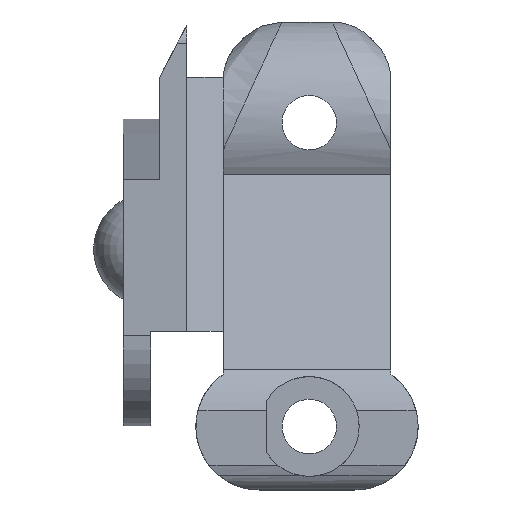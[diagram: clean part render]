
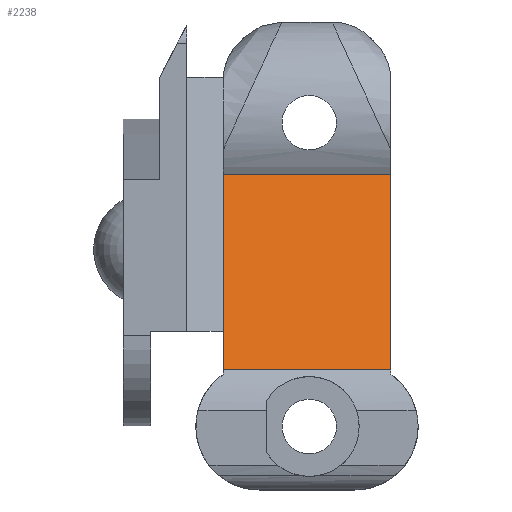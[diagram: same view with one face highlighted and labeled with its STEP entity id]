
A CAD part, left-side view. The second image highlights one B-rep face of the part: STEP entity #2238.
In plain terms, the highlighted planar face has unit normal (-0.966, 0, 0.259).
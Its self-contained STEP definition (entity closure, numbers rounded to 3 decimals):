
#136 = CARTESIAN_POINT ( 'NONE',  ( -9.525, -9.25, -16.8 ) ) ;
#230 = VERTEX_POINT ( 'NONE', #1615 ) ;
#387 = ORIENTED_EDGE ( 'NONE', *, *, #3889, .T. ) ;
#548 = LINE ( 'NONE', #4085, #1474 ) ;
#558 = ORIENTED_EDGE ( 'NONE', *, *, #4361, .T. ) ;
#567 = ORIENTED_EDGE ( 'NONE', *, *, #2391, .T. ) ;
#697 = CARTESIAN_POINT ( 'NONE',  ( -15.287, 9.25, -38.304 ) ) ;
#756 = CARTESIAN_POINT ( 'NONE',  ( -9.525, 9.25, -16.8 ) ) ;
#1406 = LINE ( 'NONE', #756, #2881 ) ;
#1474 = VECTOR ( 'NONE', #1762, 1000. ) ;
#1547 = VERTEX_POINT ( 'NONE', #3738 ) ;
#1615 = CARTESIAN_POINT ( 'NONE',  ( -15.287, -9.25, -38.304 ) ) ;
#1709 = PLANE ( 'NONE',  #2510 ) ;
#1717 = EDGE_LOOP ( 'NONE', ( #558, #1808, #567, #387 ) ) ;
#1762 = DIRECTION ( 'NONE',  ( 0., 1., 0. ) ) ;
#1780 = DIRECTION ( 'NONE',  ( -0.259, 0., -0.966 ) ) ;
#1808 = ORIENTED_EDGE ( 'NONE', *, *, #2607, .T. ) ;
#1994 = CARTESIAN_POINT ( 'NONE',  ( -15.287, -12.25, -38.304 ) ) ;
#2008 = VERTEX_POINT ( 'NONE', #697 ) ;
#2050 = CARTESIAN_POINT ( 'NONE',  ( -9.525, -12.25, -16.8 ) ) ;
#2238 = ADVANCED_FACE ( 'NONE', ( #2282 ), #1709, .T. ) ;
#2282 = FACE_OUTER_BOUND ( 'NONE', #1717, .T. ) ;
#2391 = EDGE_CURVE ( 'NONE', #230, #1547, #3597, .T. ) ;
#2393 = DIRECTION ( 'NONE',  ( 0.259, 0., 0.966 ) ) ;
#2510 = AXIS2_PLACEMENT_3D ( 'NONE', #2050, #4352, #2393 ) ;
#2540 = DIRECTION ( 'NONE',  ( 0.259, 0., 0.966 ) ) ;
#2607 = EDGE_CURVE ( 'NONE', #2008, #230, #3379, .T. ) ;
#2724 = VECTOR ( 'NONE', #2540, 1000. ) ;
#2759 = CARTESIAN_POINT ( 'NONE',  ( -9.525, 9.25, -16.8 ) ) ;
#2881 = VECTOR ( 'NONE', #1780, 1000. ) ;
#3281 = VECTOR ( 'NONE', #3985, 1000. ) ;
#3379 = LINE ( 'NONE', #1994, #3281 ) ;
#3597 = LINE ( 'NONE', #136, #2724 ) ;
#3738 = CARTESIAN_POINT ( 'NONE',  ( -9.525, -9.25, -16.8 ) ) ;
#3889 = EDGE_CURVE ( 'NONE', #1547, #4301, #548, .T. ) ;
#3985 = DIRECTION ( 'NONE',  ( 0., -1., 0. ) ) ;
#4085 = CARTESIAN_POINT ( 'NONE',  ( -9.525, -12.25, -16.8 ) ) ;
#4301 = VERTEX_POINT ( 'NONE', #2759 ) ;
#4352 = DIRECTION ( 'NONE',  ( -0.966, 0., 0.259 ) ) ;
#4361 = EDGE_CURVE ( 'NONE', #4301, #2008, #1406, .T. ) ;
